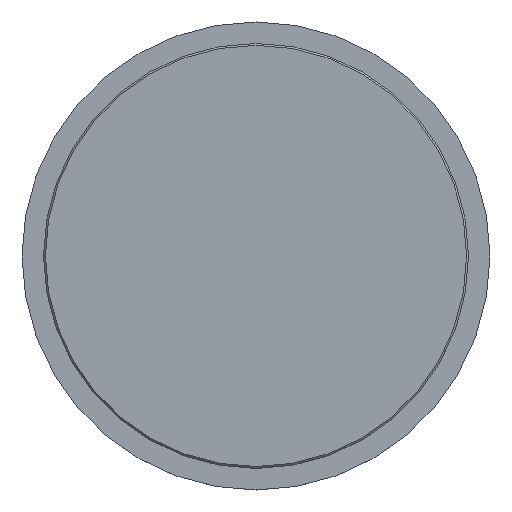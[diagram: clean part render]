
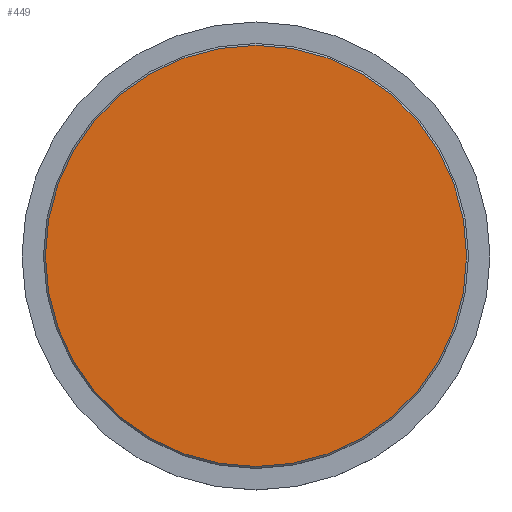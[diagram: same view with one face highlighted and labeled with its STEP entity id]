
A CAD part, top view. The second image highlights one B-rep face of the part: STEP entity #449.
In plain terms, the highlighted planar face has unit normal (0, 0, 1).
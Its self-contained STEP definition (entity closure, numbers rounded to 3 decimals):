
#449=ADVANCED_FACE('',(#514),#496,.T.);
#496=PLANE('',#1234);
#514=FACE_OUTER_BOUND('',#532,.T.);
#532=EDGE_LOOP('',(#618));
#618=ORIENTED_EDGE('',*,*,#1047,.T.);
#910=VERTEX_POINT('',#1547);
#1047=EDGE_CURVE('',#910,#910,#1193,.T.);
#1193=CIRCLE('',#1233,11.25);
#1233=AXIS2_PLACEMENT_3D('',#1546,#1321,#1322);
#1234=AXIS2_PLACEMENT_3D('',#1548,#1323,#1324);
#1321=DIRECTION('',(0.,0.,1.));
#1322=DIRECTION('',(1.,0.,0.));
#1323=DIRECTION('',(0.,0.,1.));
#1324=DIRECTION('',(1.,0.,0.));
#1546=CARTESIAN_POINT('',(0.,0.,0.3));
#1547=CARTESIAN_POINT('',(11.25,0.,0.3));
#1548=CARTESIAN_POINT('',(0.,0.,0.3));
